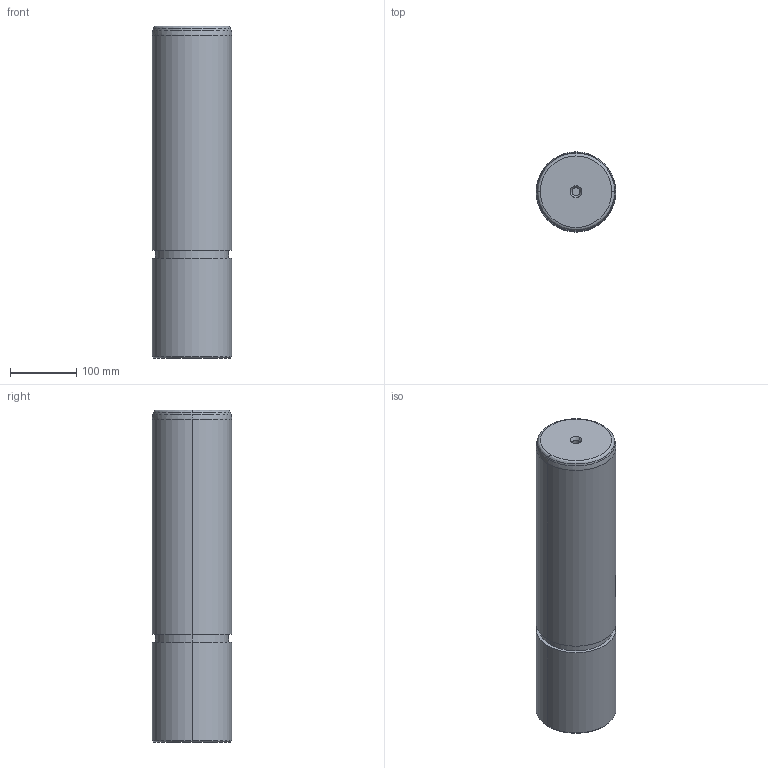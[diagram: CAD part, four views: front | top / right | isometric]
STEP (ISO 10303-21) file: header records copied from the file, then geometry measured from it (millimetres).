
FILE_DESCRIPTION((''),'2;1');
FILE_NAME('','2010-09-08T13:07:31+09:00',('misumi'),(''),'M/STEP i/f 1R2-14','CADmeister v5.1','');
FILE_SCHEMA(('AUTOMOTIVE_DESIGN'));
Length unit declared in the file: millimetre
Products named in the file (1): GPOB120-500
Bounding box: 120 x 120 x 500 mm (x, y, z)
Volume: 5622075.7 mm3; surface area: 213841.9 mm2
Topology: 1 solids, 1 shells, 23 faces, 44 edges, 26 vertices
Faces by surface type: cylinder 8, cone 6, plane 5, revolution 4
Entity records: 690 total; most frequent: DIRECTION 122, CARTESIAN_POINT 104, ORIENTED_EDGE 88, AXIS2_PLACEMENT_3D 52, EDGE_CURVE 44, CIRCLE 32, VERTEX_POINT 26, EDGE_LOOP 26
